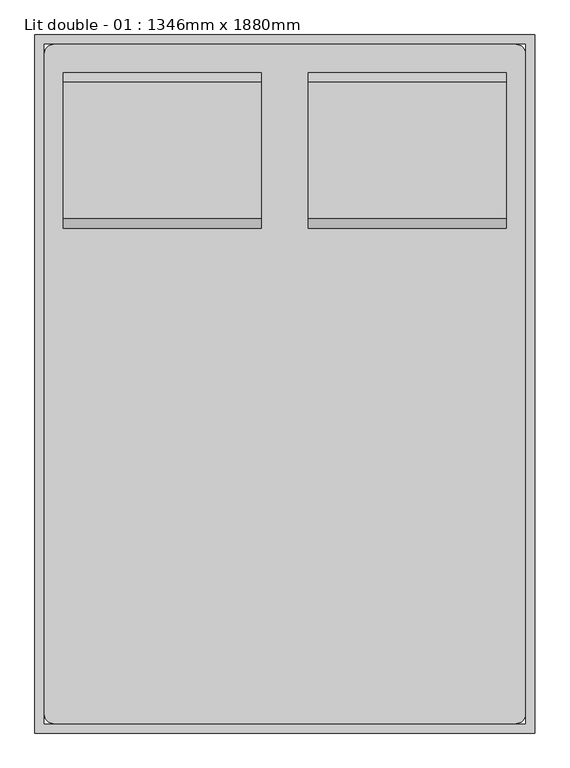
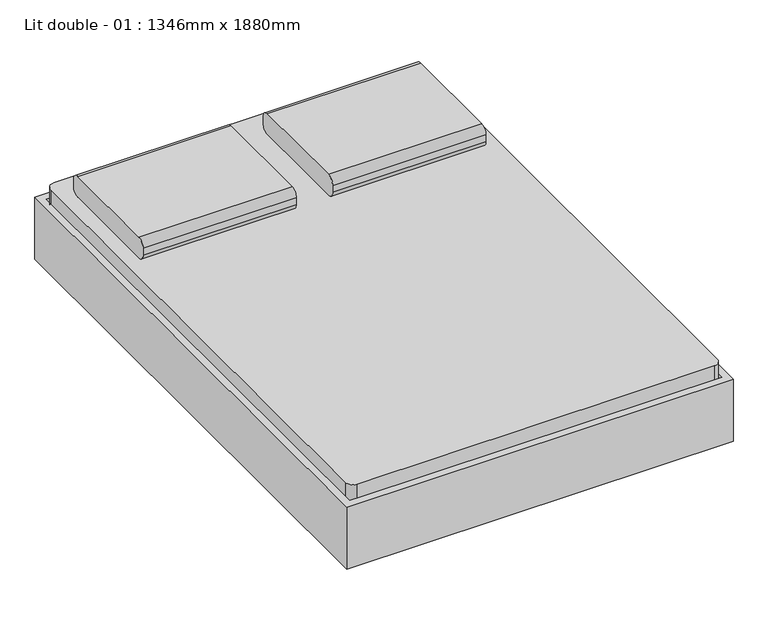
"""IFC4 building model written with IfcOpenShell, lengths in millimetres: furniture geometry, Lit double - 01 : 1346mm x 1880mm."""

from ifc_helpers import new_model, si_unit, point, frame, frame_2d, origin, place, context, project, spatial, polyline, circle_curve, trimmed, segment, composite_curve, outline, extrude, source, transform, mapped, element, save
from ifc_brep_helpers import plane_surface, cylinder_surface, revolved_surface, advanced_brep


def lit_double_01_1346mm_x_1880mm_c10bd567(model_context):
    return source(origin(), model_context, "Body", "SolidModel", [
        advanced_brep(
        [(-308.1231784, 451.5704918, 177.8), (-308.1231784, 375.3704918, 177.8), (-308.1231784, 375.3704918, 196.85), (-308.1231784, 451.5704918, 196.85), (-257.3231784, 451.5704918, 177.8), (-257.3231784, 375.3704918, 177.8), (-245.1869899, 375.3704918, 196.85), (-245.1869899, 451.5704918, 196.85), (-181.2523099, 451.5704918, 14.6654962), (-181.2523099, 375.3704918, 14.6654962), (-163.9871466, 375.3704918, 22.716374), (-163.9871466, 451.5704918, 22.716374), (-158.2320921, 375.3704918, 0.0), (-158.2320921, 451.5704918, 0.0), (-158.2320921, 375.3704918, 19.05), (-158.2320921, 451.5704918, 19.05), (-79.6195862, 451.5704918, 0.0), (-79.6195862, 375.3704918, 0.0), (-79.6195862, 375.3704918, 19.05), (-79.6195862, 451.5704918, 19.05), (-66.9195862, 375.3704918, 3.4029547), (-66.9195862, 451.5704918, 3.4029547), (-76.4445862, 375.3704918, 19.9007387), (-76.4445862, 451.5704918, 19.9007387), (-6.822541, 451.5704918, 38.1), (-6.822541, 375.3704918, 38.1), (-11.9269731, 375.3704918, 57.15), (-11.9269731, 451.5704918, 57.15), (685.4518216, 451.5704918, 38.1), (685.4518216, 375.3704918, 38.1), (690.5562537, 375.3704918, 57.15), (690.5562537, 451.5704918, 57.15), (745.5488669, 451.5704918, 3.4029547), (745.5488669, 375.3704918, 3.4029547), (755.0738669, 375.3704918, 19.9007387), (755.0738669, 451.5704918, 19.9007387), (758.2488669, 375.3704918, 0.0), (758.2488669, 451.5704918, 0.0), (758.2488669, 375.3704918, 19.05), (758.2488669, 451.5704918, 19.05), (836.8613728, 451.5704918, 0.0), (836.8613728, 375.3704918, 0.0), (836.8613728, 375.3704918, 19.05), (836.8613728, 451.5704918, 19.05), (859.8815906, 375.3704918, 14.6654962), (859.8815906, 451.5704918, 14.6654962), (842.6164272, 375.3704918, 22.716374), (842.6164272, 451.5704918, 22.716374), (935.952459, 451.5704918, 177.8), (935.952459, 375.3704918, 177.8), (923.8162705, 375.3704918, 196.85), (923.8162705, 451.5704918, 196.85), (986.752459, 451.5704918, 177.8), (986.752459, 451.5704918, 196.85), (986.752459, 375.3704918, 196.85), (986.752459, 375.3704918, 177.8)],
        [
            (0, 1),
            (1, 2),
            (2, 3),
            (3, 0),
            (0, 4),
            (4, 5),
            (5, 1),
            (5, 6),
            (6, 2),
            (6, 7),
            (7, 3),
            (7, 4),
            (4, 8),
            (8, 9),
            (9, 5),
            (9, 10),
            (10, 6),
            (10, 11),
            (11, 7),
            (11, 8),
            (12, 9, circle_curve(frame((-158.2320921, 375.3704918, 25.4), z_axis=(0.0, 1.0, 0.0), x_axis=(-0.9063077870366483, 0.0, -0.4226182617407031)), 25.4)),
            (8, 13, circle_curve(frame((-158.2320921, 451.5704918, 25.4), z_axis=(0.0, -1.0, 0.0), x_axis=(-0.9063077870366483, 0.0, -0.4226182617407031)), 25.4)),
            (13, 12),
            (14, 10, circle_curve(frame((-158.2320921, 375.3704918, 25.4), z_axis=(0.0, 1.0, 0.0), x_axis=(-0.9063077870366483, 0.0, -0.4226182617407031)), 6.35)),
            (12, 14),
            (15, 11, circle_curve(frame((-158.2320921, 451.5704918, 25.4), z_axis=(0.0, 1.0, 0.0), x_axis=(-0.9063077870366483, 0.0, -0.4226182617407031)), 6.35)),
            (14, 15),
            (15, 13),
            (13, 16),
            (16, 17),
            (17, 12),
            (17, 18),
            (18, 14),
            (18, 19),
            (19, 15),
            (19, 16),
            (20, 17, circle_curve(frame((-79.6195862, 375.3704918, 25.4), z_axis=(0.0, 1.0, 0.0), x_axis=(0.0, 0.0, -1.0)), 25.4)),
            (16, 21, circle_curve(frame((-79.6195862, 451.5704918, 25.4), z_axis=(0.0, -1.0, 0.0), x_axis=(0.0, 0.0, -1.0)), 25.4)),
            (21, 20),
            (22, 18, circle_curve(frame((-79.6195862, 375.3704918, 25.4), z_axis=(0.0, 1.0, 0.0), x_axis=(0.0, 0.0, -1.0)), 6.35)),
            (20, 22),
            (23, 19, circle_curve(frame((-79.6195862, 451.5704918, 25.4), z_axis=(0.0, 1.0, 0.0), x_axis=(0.0, 0.0, -1.0)), 6.35)),
            (22, 23),
            (23, 21),
            (21, 24),
            (24, 25),
            (25, 20),
            (25, 26),
            (26, 22),
            (26, 27),
            (27, 23),
            (27, 24),
            (24, 28),
            (28, 29),
            (29, 25),
            (29, 30),
            (30, 26),
            (30, 31),
            (31, 27),
            (31, 28),
            (28, 32),
            (32, 33),
            (33, 29),
            (33, 34),
            (34, 30),
            (34, 35),
            (35, 31),
            (35, 32),
            (36, 33, circle_curve(frame((758.2488669, 375.3704918, 25.4), z_axis=(0.0, 1.0, 0.0), x_axis=(-0.500000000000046, 0.0, -0.8660254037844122)), 25.4)),
            (32, 37, circle_curve(frame((758.2488669, 451.5704918, 25.4), z_axis=(0.0, -1.0, 0.0), x_axis=(-0.500000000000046, 0.0, -0.8660254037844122)), 25.4)),
            (37, 36),
            (38, 34, circle_curve(frame((758.2488669, 375.3704918, 25.4), z_axis=(0.0, 1.0, 0.0), x_axis=(-0.500000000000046, 0.0, -0.8660254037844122)), 6.35)),
            (36, 38),
            (39, 35, circle_curve(frame((758.2488669, 451.5704918, 25.4), z_axis=(0.0, 1.0, 0.0), x_axis=(-0.500000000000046, 0.0, -0.8660254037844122)), 6.35)),
            (38, 39),
            (39, 37),
            (37, 40),
            (40, 41),
            (41, 36),
            (41, 42),
            (42, 38),
            (42, 43),
            (43, 39),
            (43, 40),
            (44, 41, circle_curve(frame((836.8613728, 375.3704918, 25.4), z_axis=(0.0, 1.0, 0.0), x_axis=(0.0, 0.0, -1.0)), 25.4)),
            (40, 45, circle_curve(frame((836.8613728, 451.5704918, 25.4), z_axis=(0.0, -1.0, 0.0), x_axis=(0.0, 0.0, -1.0)), 25.4)),
            (45, 44),
            (46, 42, circle_curve(frame((836.8613728, 375.3704918, 25.4), z_axis=(0.0, 1.0, 0.0), x_axis=(0.0, 0.0, -1.0)), 6.35)),
            (44, 46),
            (47, 43, circle_curve(frame((836.8613728, 451.5704918, 25.4), z_axis=(0.0, 1.0, 0.0), x_axis=(0.0, 0.0, -1.0)), 6.35)),
            (46, 47),
            (47, 45),
            (45, 48),
            (48, 49),
            (49, 44),
            (49, 50),
            (50, 46),
            (50, 51),
            (51, 47),
            (51, 48),
            (52, 53),
            (53, 54),
            (54, 55),
            (55, 52),
            (48, 52),
            (55, 49),
            (54, 50),
            (53, 51),
        ],
        [
            plane_surface(frame((-308.1231784, 705.5704918, -152.9490627), z_axis=(-1.0, 0.0, 0.0), x_axis=(0.0, 1.0, 0.0))),
            plane_surface(frame((-308.1231784, 451.5704918, 177.8), z_axis=(0.0, 0.0, -1.0), x_axis=(1.0, 0.0, 0.0))),
            plane_surface(frame((-308.1231784, 375.3704918, 177.8), z_axis=(0.0, -1.0, 0.0), x_axis=(1.0, 0.0, 0.0))),
            plane_surface(frame((-308.1231784, 375.3704918, 196.85), z_axis=(0.0, 0.0, 1.0), x_axis=(1.0, 0.0, 0.0))),
            plane_surface(frame((-308.1231784, 451.5704918, 196.85), z_axis=(0.0, 1.0, 0.0), x_axis=(1.0, 0.0, 0.0))),
            plane_surface(frame((-257.3231784, 451.5704918, 177.8), z_axis=(-0.9063077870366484, 0.0, -0.4226182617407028), x_axis=(0.4226182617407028, 0.0, -0.9063077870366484))),
            plane_surface(frame((-257.3231784, 375.3704918, 177.8), z_axis=(0.0, -1.0, 0.0), x_axis=(0.42261826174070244, 0.0, -0.9063077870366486))),
            plane_surface(frame((-245.1869899, 375.3704918, 196.85), z_axis=(0.9063077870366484, 0.0, 0.4226182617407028), x_axis=(0.4226182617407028, 0.0, -0.9063077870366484))),
            plane_surface(frame((-245.1869899, 451.5704918, 196.85), z_axis=(0.0, 1.0, 0.0), x_axis=(0.42261826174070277, 0.0, -0.9063077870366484))),
            cylinder_surface(frame((-158.2320921, 705.5704918, 25.4), z_axis=(0.0, -1.0, 0.0), x_axis=(-0.9063077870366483, 0.0, -0.4226182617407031)), 25.4),
            plane_surface(frame((-158.2320921, 375.3704918, 25.4), z_axis=(0.0, -1.0, 0.0), x_axis=(-0.9063077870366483, 0.0, -0.4226182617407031))),
            revolved_surface(polyline([(-163.9871465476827, 375.3704918, 22.716374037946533), (-163.9871465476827, 451.5704918, 22.716374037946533)]), (-158.2320921, 705.5704918, 25.4), (0.0, -1.0, 0.0)),
            plane_surface(frame((-158.2320921, 451.5704918, 25.4), z_axis=(0.0, 1.0, 0.0), x_axis=(-0.9063077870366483, 0.0, -0.4226182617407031))),
            plane_surface(frame((-158.2320921, 451.5704918, 0.0), z_axis=(0.0, 0.0, -1.0), x_axis=(1.0, 0.0, 0.0))),
            plane_surface(frame((-158.2320921, 375.3704918, 0.0), z_axis=(0.0, -1.0, 0.0), x_axis=(1.0, 0.0, 0.0))),
            plane_surface(frame((-158.2320921, 375.3704918, 19.05), z_axis=(0.0, 0.0, 1.0), x_axis=(1.0, 0.0, 0.0))),
            plane_surface(frame((-158.2320921, 451.5704918, 19.05), z_axis=(0.0, 1.0, 0.0), x_axis=(1.0, 0.0, 0.0))),
            cylinder_surface(frame((-79.6195862, 705.5704918, 25.4), z_axis=(0.0, -1.0, 0.0), x_axis=(0.0, 0.0, -1.0)), 25.4),
            plane_surface(frame((-79.6195862, 375.3704918, 25.4), z_axis=(0.0, -1.0, 0.0), x_axis=(0.0, 0.0, -1.0))),
            revolved_surface(polyline([(-79.6195862, 375.3704918, 19.049999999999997), (-79.6195862, 451.5704918, 19.049999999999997)]), (-79.6195862, 705.5704918, 25.4), (0.0, -1.0, 0.0)),
            plane_surface(frame((-79.6195862, 451.5704918, 25.4), z_axis=(0.0, 1.0, 0.0), x_axis=(0.0, 0.0, -1.0))),
            plane_surface(frame((-66.9195862, 451.5704918, 3.4029547), z_axis=(0.4999999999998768, 0.0, -0.8660254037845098), x_axis=(0.8660254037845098, 0.0, 0.4999999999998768))),
            plane_surface(frame((-66.9195862, 375.3704918, 3.4029547), z_axis=(0.0, -1.0, 0.0), x_axis=(0.8660254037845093, 0.0, 0.4999999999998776))),
            plane_surface(frame((-76.4445862, 375.3704918, 19.9007387), z_axis=(-0.4999999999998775, 0.0, 0.8660254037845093), x_axis=(0.8660254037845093, 0.0, 0.4999999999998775))),
            plane_surface(frame((-76.4445862, 451.5704918, 19.9007387), z_axis=(0.0, 1.0, 0.0), x_axis=(0.8660254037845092, 0.0, 0.4999999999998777))),
            plane_surface(frame((-6.822541, 451.5704918, 38.1), z_axis=(0.0, 0.0, -1.0), x_axis=(1.0, 0.0, 0.0))),
            plane_surface(frame((-6.822541, 375.3704918, 38.1), z_axis=(0.0, -1.0, 0.0), x_axis=(1.0, 0.0, 0.0))),
            plane_surface(frame((-11.9269731, 375.3704918, 57.15), z_axis=(0.0, 0.0, 1.0), x_axis=(1.0, 0.0, 0.0))),
            plane_surface(frame((-11.9269731, 451.5704918, 57.15), z_axis=(0.0, 1.0, 0.0), x_axis=(1.0, 0.0, 0.0))),
            plane_surface(frame((685.4518216, 451.5704918, 38.1), z_axis=(-0.5000000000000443, 0.0, -0.8660254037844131), x_axis=(0.8660254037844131, 0.0, -0.5000000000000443))),
            plane_surface(frame((685.4518216, 375.3704918, 38.1), z_axis=(0.0, -1.0000000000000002, 0.0), x_axis=(0.8660254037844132, 0.0, -0.5000000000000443))),
            plane_surface(frame((690.5562537, 375.3704918, 57.15), z_axis=(0.5000000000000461, 0.0, 0.8660254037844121), x_axis=(0.8660254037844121, 0.0, -0.5000000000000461))),
            plane_surface(frame((690.5562537, 451.5704918, 57.15), z_axis=(0.0, 1.0, 0.0), x_axis=(0.866025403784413, 0.0, -0.5000000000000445))),
            cylinder_surface(frame((758.2488669, 705.5704918, 25.4), z_axis=(0.0, -1.0, 0.0), x_axis=(-0.500000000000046, 0.0, -0.8660254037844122)), 25.4),
            plane_surface(frame((758.2488669, 375.3704918, 25.4), z_axis=(0.0, -1.0, 0.0), x_axis=(-0.500000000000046, 0.0, -0.8660254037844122))),
            revolved_surface(polyline([(755.0738668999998, 375.3704918, 19.90073868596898), (755.0738668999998, 451.5704918, 19.90073868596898)]), (758.2488669, 705.5704918, 25.4), (0.0, -1.0, 0.0)),
            plane_surface(frame((758.2488669, 451.5704918, 25.4), z_axis=(0.0, 1.0, 0.0), x_axis=(-0.500000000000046, 0.0, -0.8660254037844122))),
            plane_surface(frame((758.2488669, 451.5704918, 0.0), z_axis=(0.0, 0.0, -1.0), x_axis=(1.0, 0.0, 0.0))),
            plane_surface(frame((758.2488669, 375.3704918, 0.0), z_axis=(0.0, -1.0, 0.0), x_axis=(1.0, 0.0, 0.0))),
            plane_surface(frame((758.2488669, 375.3704918, 19.05), z_axis=(0.0, 0.0, 1.0), x_axis=(1.0, 0.0, 0.0))),
            plane_surface(frame((758.2488669, 451.5704918, 19.05), z_axis=(0.0, 1.0, 0.0), x_axis=(1.0, 0.0, 0.0))),
            cylinder_surface(frame((836.8613728, 705.5704918, 25.4), z_axis=(0.0, -1.0, 0.0), x_axis=(0.0, 0.0, -1.0)), 25.4),
            plane_surface(frame((836.8613728, 375.3704918, 25.4), z_axis=(0.0, -1.0, 0.0), x_axis=(0.0, 0.0, -1.0))),
            revolved_surface(polyline([(836.8613728, 375.3704918, 19.049999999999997), (836.8613728, 451.5704918, 19.049999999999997)]), (836.8613728, 705.5704918, 25.4), (0.0, -1.0, 0.0)),
            plane_surface(frame((836.8613728, 451.5704918, 25.4), z_axis=(0.0, 1.0, 0.0), x_axis=(0.0, 0.0, -1.0))),
            plane_surface(frame((859.8815906, 451.5704918, 14.6654962), z_axis=(0.9063077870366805, 0.0, -0.42261826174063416), x_axis=(0.42261826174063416, 0.0, 0.9063077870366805))),
            plane_surface(frame((859.8815906, 375.3704918, 14.6654962), z_axis=(0.0, -1.0, 0.0), x_axis=(0.4226182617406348, 0.0, 0.9063077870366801))),
            plane_surface(frame((842.6164272, 375.3704918, 22.716374), z_axis=(-0.9063077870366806, 0.0, 0.42261826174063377), x_axis=(0.42261826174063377, 0.0, 0.9063077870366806))),
            plane_surface(frame((842.6164272, 451.5704918, 22.716374), z_axis=(0.0, 1.0, 0.0), x_axis=(0.4226182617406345, 0.0, 0.9063077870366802))),
            plane_surface(frame((986.752459, 705.5704918, -152.9490627), z_axis=(1.0, 0.0, 0.0), x_axis=(0.0, 1.0, 0.0))),
            plane_surface(frame((935.952459, 451.5704918, 177.8), z_axis=(0.0, 0.0, -1.0), x_axis=(1.0, 0.0, 0.0))),
            plane_surface(frame((935.952459, 375.3704918, 177.8), z_axis=(0.0, -1.0, 0.0), x_axis=(1.0, 0.0, 0.0))),
            plane_surface(frame((923.8162705, 375.3704918, 196.85), z_axis=(0.0, 0.0, 1.0), x_axis=(1.0, 0.0, 0.0))),
            plane_surface(frame((923.8162705, 451.5704918, 196.85), z_axis=(0.0, 1.0, 0.0), x_axis=(1.0, 0.0, 0.0))),
        ],
        [
            (0, [[1, 2, 3, 4]]),
            (1, [[-1, 5, 6, 7]]),
            (2, [[-2, -7, 8, 9]]),
            (3, [[-3, -9, 10, 11]]),
            (4, [[-4, -11, 12, -5]]),
            (5, [[-6, 13, 14, 15]]),
            (6, [[-8, -15, 16, 17]]),
            (7, [[-10, -17, 18, 19]]),
            (8, [[-12, -19, 20, -13]]),
            (9, [[21, -14, 22, 23]]),
            (10, [[24, -16, -21, 25]]),
            (11, [[26, -18, -24, 27]]),
            (12, [[-22, -20, -26, 28]]),
            (13, [[-23, 29, 30, 31]]),
            (14, [[-25, -31, 32, 33]]),
            (15, [[-27, -33, 34, 35]]),
            (16, [[-28, -35, 36, -29]]),
            (17, [[37, -30, 38, 39]]),
            (18, [[40, -32, -37, 41]]),
            (19, [[42, -34, -40, 43]]),
            (20, [[-38, -36, -42, 44]]),
            (21, [[-39, 45, 46, 47]]),
            (22, [[-41, -47, 48, 49]]),
            (23, [[-43, -49, 50, 51]]),
            (24, [[-44, -51, 52, -45]]),
            (25, [[-46, 53, 54, 55]]),
            (26, [[-48, -55, 56, 57]]),
            (27, [[-50, -57, 58, 59]]),
            (28, [[-52, -59, 60, -53]]),
            (29, [[-54, 61, 62, 63]]),
            (30, [[-56, -63, 64, 65]]),
            (31, [[-58, -65, 66, 67]]),
            (32, [[-60, -67, 68, -61]]),
            (33, [[69, -62, 70, 71]]),
            (34, [[72, -64, -69, 73]]),
            (35, [[74, -66, -72, 75]]),
            (36, [[-70, -68, -74, 76]]),
            (37, [[-71, 77, 78, 79]]),
            (38, [[-73, -79, 80, 81]]),
            (39, [[-75, -81, 82, 83]]),
            (40, [[-76, -83, 84, -77]]),
            (41, [[85, -78, 86, 87]]),
            (42, [[88, -80, -85, 89]]),
            (43, [[90, -82, -88, 91]]),
            (44, [[-86, -84, -90, 92]]),
            (45, [[-87, 93, 94, 95]]),
            (46, [[-89, -95, 96, 97]]),
            (47, [[-91, -97, 98, 99]]),
            (48, [[-92, -99, 100, -93]]),
            (49, [[101, 102, 103, 104]]),
            (50, [[-94, 105, -104, 106]]),
            (51, [[-96, -106, -103, 107]]),
            (52, [[-98, -107, -102, 108]]),
            (53, [[-100, -108, -101, -105]]),
        ],
    ),
        advanced_brep(
        [(-308.447541, -869.6295082, 196.85), (-308.447541, -869.6295082, 177.8), (-308.447541, -945.8295082, 177.8), (-308.447541, -945.8295082, 196.85), (-245.5113525, -869.6295082, 196.85), (-257.647541, -869.6295082, 177.8), (-257.647541, -945.8295082, 177.8), (-245.5113525, -945.8295082, 196.85), (-164.3115092, -869.6295082, 22.716374), (-181.5766725, -869.6295082, 14.6654962), (-181.5766725, -945.8295082, 14.6654962), (-164.3115092, -945.8295082, 22.716374), (-158.5564547, -869.6295082, 0.0), (-158.5564547, -869.6295082, 19.05), (-158.5564547, -945.8295082, 0.0), (-158.5564547, -945.8295082, 19.05), (-79.9439489, -869.6295082, 19.05), (-79.9439489, -869.6295082, 0.0), (-79.9439489, -945.8295082, 0.0), (-79.9439489, -945.8295082, 19.05), (-67.2439489, -869.6295082, 3.4029547), (-76.7689489, -869.6295082, 19.9007387), (-67.2439489, -945.8295082, 3.4029547), (-76.7689489, -945.8295082, 19.9007387), (-12.2513357, -869.6295082, 57.15), (-7.1469036, -869.6295082, 38.1), (-7.1469036, -945.8295082, 38.1), (-12.2513357, -945.8295082, 57.15), (690.5562537, -869.6295082, 57.15), (685.4518216, -869.6295082, 38.1), (685.4518216, -945.8295082, 38.1), (690.5562537, -945.8295082, 57.15), (755.0738669, -869.6295082, 19.9007387), (745.5488669, -869.6295082, 3.4029547), (745.5488669, -945.8295082, 3.4029547), (755.0738669, -945.8295082, 19.9007387), (758.2488669, -869.6295082, 0.0), (758.2488669, -869.6295082, 19.05), (758.2488669, -945.8295082, 0.0), (758.2488669, -945.8295082, 19.05), (836.8613728, -869.6295082, 19.05), (836.8613728, -869.6295082, 0.0), (836.8613728, -945.8295082, 0.0), (836.8613728, -945.8295082, 19.05), (859.8815906, -869.6295082, 14.6654962), (842.6164272, -869.6295082, 22.716374), (859.8815906, -945.8295082, 14.6654962), (842.6164272, -945.8295082, 22.716374), (923.8162705, -869.6295082, 196.85), (935.952459, -869.6295082, 177.8), (935.952459, -945.8295082, 177.8), (923.8162705, -945.8295082, 196.85), (986.752459, -869.6295082, 196.85), (986.752459, -945.8295082, 196.85), (986.752459, -945.8295082, 177.8), (986.752459, -869.6295082, 177.8)],
        [
            (0, 1),
            (1, 2),
            (2, 3),
            (3, 0),
            (0, 4),
            (4, 5),
            (5, 1),
            (5, 6),
            (6, 2),
            (6, 7),
            (7, 3),
            (7, 4),
            (4, 8),
            (8, 9),
            (9, 5),
            (9, 10),
            (10, 6),
            (10, 11),
            (11, 7),
            (11, 8),
            (12, 9, circle_curve(frame((-158.5564547, -869.6295082, 25.4), z_axis=(0.0, 1.0, 0.0), x_axis=(-0.906307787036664, 0.0, -0.4226182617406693)), 25.4)),
            (8, 13, circle_curve(frame((-158.5564547, -869.6295082, 25.4), z_axis=(0.0, -1.0, 0.0), x_axis=(-0.906307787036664, 0.0, -0.4226182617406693)), 6.35)),
            (13, 12),
            (14, 10, circle_curve(frame((-158.5564547, -945.8295082, 25.4), z_axis=(0.0, 1.0, 0.0), x_axis=(-0.906307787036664, 0.0, -0.4226182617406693)), 25.4)),
            (12, 14),
            (15, 11, circle_curve(frame((-158.5564547, -945.8295082, 25.4), z_axis=(0.0, 1.0, 0.0), x_axis=(-0.906307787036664, 0.0, -0.4226182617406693)), 6.35)),
            (14, 15),
            (15, 13),
            (13, 16),
            (16, 17),
            (17, 12),
            (17, 18),
            (18, 14),
            (18, 19),
            (19, 15),
            (19, 16),
            (20, 17, circle_curve(frame((-79.9439489, -869.6295082, 25.4), z_axis=(0.0, 1.0, 0.0), x_axis=(0.0, 0.0, -1.0)), 25.4)),
            (16, 21, circle_curve(frame((-79.9439489, -869.6295082, 25.4), z_axis=(0.0, -1.0, 0.0), x_axis=(0.0, 0.0, -1.0)), 6.35)),
            (21, 20),
            (22, 18, circle_curve(frame((-79.9439489, -945.8295082, 25.4), z_axis=(0.0, 1.0, 0.0), x_axis=(0.0, 0.0, -1.0)), 25.4)),
            (20, 22),
            (23, 19, circle_curve(frame((-79.9439489, -945.8295082, 25.4), z_axis=(0.0, 1.0, 0.0), x_axis=(0.0, 0.0, -1.0)), 6.35)),
            (22, 23),
            (23, 21),
            (21, 24),
            (24, 25),
            (25, 20),
            (25, 26),
            (26, 22),
            (26, 27),
            (27, 23),
            (27, 24),
            (24, 28),
            (28, 29),
            (29, 25),
            (29, 30),
            (30, 26),
            (30, 31),
            (31, 27),
            (31, 28),
            (28, 32),
            (32, 33),
            (33, 29),
            (33, 34),
            (34, 30),
            (34, 35),
            (35, 31),
            (35, 32),
            (36, 33, circle_curve(frame((758.2488669, -869.6295082, 25.4), z_axis=(0.0, 1.0, 0.0), x_axis=(-0.5000000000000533, 0.0, -0.866025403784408)), 25.4)),
            (32, 37, circle_curve(frame((758.2488669, -869.6295082, 25.4), z_axis=(0.0, -1.0, 0.0), x_axis=(-0.5000000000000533, 0.0, -0.866025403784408)), 6.35)),
            (37, 36),
            (38, 34, circle_curve(frame((758.2488669, -945.8295082, 25.4), z_axis=(0.0, 1.0, 0.0), x_axis=(-0.5000000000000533, 0.0, -0.866025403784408)), 25.4)),
            (36, 38),
            (39, 35, circle_curve(frame((758.2488669, -945.8295082, 25.4), z_axis=(0.0, 1.0, 0.0), x_axis=(-0.5000000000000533, 0.0, -0.866025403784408)), 6.35)),
            (38, 39),
            (39, 37),
            (37, 40),
            (40, 41),
            (41, 36),
            (41, 42),
            (42, 38),
            (42, 43),
            (43, 39),
            (43, 40),
            (44, 41, circle_curve(frame((836.8613728, -869.6295082, 25.4), z_axis=(0.0, 1.0, 0.0), x_axis=(0.0, 0.0, -1.0)), 25.4)),
            (40, 45, circle_curve(frame((836.8613728, -869.6295082, 25.4), z_axis=(0.0, -1.0, 0.0), x_axis=(0.0, 0.0, -1.0)), 6.35)),
            (45, 44),
            (46, 42, circle_curve(frame((836.8613728, -945.8295082, 25.4), z_axis=(0.0, 1.0, 0.0), x_axis=(0.0, 0.0, -1.0)), 25.4)),
            (44, 46),
            (47, 43, circle_curve(frame((836.8613728, -945.8295082, 25.4), z_axis=(0.0, 1.0, 0.0), x_axis=(0.0, 0.0, -1.0)), 6.35)),
            (46, 47),
            (47, 45),
            (45, 48),
            (48, 49),
            (49, 44),
            (49, 50),
            (50, 46),
            (50, 51),
            (51, 47),
            (51, 48),
            (52, 53),
            (53, 54),
            (54, 55),
            (55, 52),
            (48, 52),
            (55, 49),
            (54, 50),
            (53, 51),
        ],
        [
            plane_surface(frame((-308.447541, -1174.4295082, -127.5947323), z_axis=(-1.0, 0.0, 0.0), x_axis=(0.0, 1.0, 0.0))),
            plane_surface(frame((-308.447541, -869.6295082, 196.85), z_axis=(0.0, 1.0, 0.0), x_axis=(1.0, 0.0, 0.0))),
            plane_surface(frame((-308.447541, -869.6295082, 177.8), z_axis=(0.0, 0.0, -1.0), x_axis=(1.0, 0.0, 0.0))),
            plane_surface(frame((-308.447541, -945.8295082, 177.8), z_axis=(0.0, -1.0, 0.0), x_axis=(1.0, 0.0, 0.0))),
            plane_surface(frame((-308.447541, -945.8295082, 196.85), z_axis=(0.0, 0.0, 1.0), x_axis=(1.0, 0.0, 0.0))),
            plane_surface(frame((-245.5113525, -869.6295082, 196.85), z_axis=(0.0, 1.0, 0.0), x_axis=(0.422618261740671, 0.0, -0.9063077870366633))),
            plane_surface(frame((-257.647541, -869.6295082, 177.8), z_axis=(-0.9063077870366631, 0.0, -0.4226182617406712), x_axis=(0.4226182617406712, 0.0, -0.9063077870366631))),
            plane_surface(frame((-257.647541, -945.8295082, 177.8), z_axis=(0.0, -1.0000000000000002, 0.0), x_axis=(0.4226182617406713, 0.0, -0.9063077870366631))),
            plane_surface(frame((-245.5113525, -945.8295082, 196.85), z_axis=(0.9063077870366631, 0.0, 0.42261826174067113), x_axis=(0.42261826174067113, 0.0, -0.9063077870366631))),
            plane_surface(frame((-158.5564547, -869.6295082, 25.4), z_axis=(0.0, 1.0, 0.0), x_axis=(-0.906307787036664, 0.0, -0.4226182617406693))),
            cylinder_surface(frame((-158.5564547, -1174.4295082, 25.4), z_axis=(0.0, -1.0, 0.0), x_axis=(-0.906307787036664, 0.0, -0.4226182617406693)), 25.4),
            plane_surface(frame((-158.5564547, -945.8295082, 25.4), z_axis=(0.0, -1.0, 0.0), x_axis=(-0.906307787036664, 0.0, -0.4226182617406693))),
            revolved_surface(polyline([(-164.3115091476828, -945.8295082, 22.71637403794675), (-164.3115091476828, -869.6295082, 22.71637403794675)]), (-158.5564547, -1174.4295082, 25.4), (0.0, -1.0, 0.0)),
            plane_surface(frame((-158.5564547, -869.6295082, 19.05), z_axis=(0.0, 1.0, 0.0), x_axis=(1.0, 0.0, 0.0))),
            plane_surface(frame((-158.5564547, -869.6295082, 0.0), z_axis=(0.0, 0.0, -1.0), x_axis=(1.0, 0.0, 0.0))),
            plane_surface(frame((-158.5564547, -945.8295082, 0.0), z_axis=(0.0, -1.0, 0.0), x_axis=(1.0, 0.0, 0.0))),
            plane_surface(frame((-158.5564547, -945.8295082, 19.05), z_axis=(0.0, 0.0, 1.0), x_axis=(1.0, 0.0, 0.0))),
            plane_surface(frame((-79.9439489, -869.6295082, 25.4), z_axis=(0.0, 1.0, 0.0), x_axis=(0.0, 0.0, -1.0))),
            cylinder_surface(frame((-79.9439489, -1174.4295082, 25.4), z_axis=(0.0, -1.0, 0.0), x_axis=(0.0, 0.0, -1.0)), 25.4),
            plane_surface(frame((-79.9439489, -945.8295082, 25.4), z_axis=(0.0, -1.0, 0.0), x_axis=(0.0, 0.0, -1.0))),
            revolved_surface(polyline([(-79.9439489, -945.8295082, 19.049999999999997), (-79.9439489, -869.6295082, 19.049999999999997)]), (-79.9439489, -1174.4295082, 25.4), (0.0, -1.0, 0.0)),
            plane_surface(frame((-76.7689489, -869.6295082, 19.9007387), z_axis=(0.0, 1.0, 0.0), x_axis=(0.8660254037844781, 0.0, 0.4999999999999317))),
            plane_surface(frame((-67.2439489, -869.6295082, 3.4029547), z_axis=(0.4999999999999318, 0.0, -0.8660254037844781), x_axis=(0.8660254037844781, 0.0, 0.4999999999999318))),
            plane_surface(frame((-67.2439489, -945.8295082, 3.4029547), z_axis=(0.0, -1.0, 0.0), x_axis=(0.8660254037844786, 0.0, 0.4999999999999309))),
            plane_surface(frame((-76.7689489, -945.8295082, 19.9007387), z_axis=(-0.49999999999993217, 0.0, 0.8660254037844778), x_axis=(0.8660254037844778, 0.0, 0.49999999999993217))),
            plane_surface(frame((-12.2513357, -869.6295082, 57.15), z_axis=(0.0, 1.0, 0.0), x_axis=(1.0, 0.0, 0.0))),
            plane_surface(frame((-7.1469036, -869.6295082, 38.1), z_axis=(0.0, 0.0, -1.0), x_axis=(1.0, 0.0, 0.0))),
            plane_surface(frame((-7.1469036, -945.8295082, 38.1), z_axis=(0.0, -1.0, 0.0), x_axis=(1.0, 0.0, 0.0))),
            plane_surface(frame((-12.2513357, -945.8295082, 57.15), z_axis=(0.0, 0.0, 1.0), x_axis=(1.0, 0.0, 0.0))),
            plane_surface(frame((690.5562537, -869.6295082, 57.15), z_axis=(0.0, 1.0, 0.0), x_axis=(0.8660254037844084, 0.0, -0.5000000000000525))),
            plane_surface(frame((685.4518216, -869.6295082, 38.1), z_axis=(-0.500000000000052, 0.0, -0.8660254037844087), x_axis=(0.8660254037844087, 0.0, -0.500000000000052))),
            plane_surface(frame((685.4518216, -945.8295082, 38.1), z_axis=(0.0, -1.0, 0.0), x_axis=(0.866025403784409, 0.0, -0.5000000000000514))),
            plane_surface(frame((690.5562537, -945.8295082, 57.15), z_axis=(0.5000000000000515, 0.0, 0.866025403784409), x_axis=(0.866025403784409, 0.0, -0.5000000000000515))),
            plane_surface(frame((758.2488669, -869.6295082, 25.4), z_axis=(0.0, 1.0, 0.0), x_axis=(-0.5000000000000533, 0.0, -0.866025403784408))),
            cylinder_surface(frame((758.2488669, -1174.4295082, 25.4), z_axis=(0.0, -1.0, 0.0), x_axis=(-0.5000000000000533, 0.0, -0.866025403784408)), 25.4),
            plane_surface(frame((758.2488669, -945.8295082, 25.4), z_axis=(0.0, -1.0, 0.0), x_axis=(-0.5000000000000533, 0.0, -0.866025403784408))),
            revolved_surface(polyline([(755.0738668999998, -945.8295082, 19.90073868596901), (755.0738668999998, -869.6295082, 19.90073868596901)]), (758.2488669, -1174.4295082, 25.4), (0.0, -1.0, 0.0)),
            plane_surface(frame((758.2488669, -869.6295082, 19.05), z_axis=(0.0, 1.0, 0.0), x_axis=(1.0, 0.0, 0.0))),
            plane_surface(frame((758.2488669, -869.6295082, 0.0), z_axis=(0.0, 0.0, -1.0), x_axis=(1.0, 0.0, 0.0))),
            plane_surface(frame((758.2488669, -945.8295082, 0.0), z_axis=(0.0, -1.0, 0.0), x_axis=(1.0, 0.0, 0.0))),
            plane_surface(frame((758.2488669, -945.8295082, 19.05), z_axis=(0.0, 0.0, 1.0), x_axis=(1.0, 0.0, 0.0))),
            plane_surface(frame((836.8613728, -869.6295082, 25.4), z_axis=(0.0, 1.0, 0.0), x_axis=(0.0, 0.0, -1.0))),
            cylinder_surface(frame((836.8613728, -1174.4295082, 25.4), z_axis=(0.0, -1.0, 0.0), x_axis=(0.0, 0.0, -1.0)), 25.4),
            plane_surface(frame((836.8613728, -945.8295082, 25.4), z_axis=(0.0, -1.0, 0.0), x_axis=(0.0, 0.0, -1.0))),
            revolved_surface(polyline([(836.8613728, -945.8295082, 19.049999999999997), (836.8613728, -869.6295082, 19.049999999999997)]), (836.8613728, -1174.4295082, 25.4), (0.0, -1.0, 0.0)),
            plane_surface(frame((842.6164272, -869.6295082, 22.716374), z_axis=(0.0, 1.0000000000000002, 0.0), x_axis=(0.4226182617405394, 0.0, 0.9063077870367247))),
            plane_surface(frame((859.8815906, -869.6295082, 14.6654962), z_axis=(0.9063077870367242, 0.0, -0.42261826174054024), x_axis=(0.42261826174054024, 0.0, 0.9063077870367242))),
            plane_surface(frame((859.8815906, -945.8295082, 14.6654962), z_axis=(0.0, -1.0, 0.0), x_axis=(0.4226182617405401, 0.0, 0.9063077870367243))),
            plane_surface(frame((842.6164272, -945.8295082, 22.716374), z_axis=(-0.9063077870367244, 0.0, 0.42261826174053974), x_axis=(0.42261826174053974, 0.0, 0.9063077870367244))),
            plane_surface(frame((986.752459, -1174.4295082, -127.5947323), z_axis=(1.0, 0.0, 0.0), x_axis=(0.0, 1.0, 0.0))),
            plane_surface(frame((923.8162705, -869.6295082, 196.85), z_axis=(0.0, 1.0, 0.0), x_axis=(1.0, 0.0, 0.0))),
            plane_surface(frame((935.952459, -869.6295082, 177.8), z_axis=(0.0, 0.0, -1.0), x_axis=(1.0, 0.0, 0.0))),
            plane_surface(frame((935.952459, -945.8295082, 177.8), z_axis=(0.0, -1.0, 0.0), x_axis=(1.0, 0.0, 0.0))),
            plane_surface(frame((923.8162705, -945.8295082, 196.85), z_axis=(0.0, 0.0, 1.0), x_axis=(1.0, 0.0, 0.0))),
        ],
        [
            (0, [[1, 2, 3, 4]]),
            (1, [[-1, 5, 6, 7]]),
            (2, [[-2, -7, 8, 9]]),
            (3, [[-3, -9, 10, 11]]),
            (4, [[-4, -11, 12, -5]]),
            (5, [[-6, 13, 14, 15]]),
            (6, [[-8, -15, 16, 17]]),
            (7, [[-10, -17, 18, 19]]),
            (8, [[-12, -19, 20, -13]]),
            (9, [[21, -14, 22, 23]]),
            (10, [[24, -16, -21, 25]]),
            (11, [[26, -18, -24, 27]]),
            (12, [[-22, -20, -26, 28]]),
            (13, [[-23, 29, 30, 31]]),
            (14, [[-25, -31, 32, 33]]),
            (15, [[-27, -33, 34, 35]]),
            (16, [[-28, -35, 36, -29]]),
            (17, [[37, -30, 38, 39]]),
            (18, [[40, -32, -37, 41]]),
            (19, [[42, -34, -40, 43]]),
            (20, [[-38, -36, -42, 44]]),
            (21, [[-39, 45, 46, 47]]),
            (22, [[-41, -47, 48, 49]]),
            (23, [[-43, -49, 50, 51]]),
            (24, [[-44, -51, 52, -45]]),
            (25, [[-46, 53, 54, 55]]),
            (26, [[-48, -55, 56, 57]]),
            (27, [[-50, -57, 58, 59]]),
            (28, [[-52, -59, 60, -53]]),
            (29, [[-54, 61, 62, 63]]),
            (30, [[-56, -63, 64, 65]]),
            (31, [[-58, -65, 66, 67]]),
            (32, [[-60, -67, 68, -61]]),
            (33, [[69, -62, 70, 71]]),
            (34, [[72, -64, -69, 73]]),
            (35, [[74, -66, -72, 75]]),
            (36, [[-70, -68, -74, 76]]),
            (37, [[-71, 77, 78, 79]]),
            (38, [[-73, -79, 80, 81]]),
            (39, [[-75, -81, 82, 83]]),
            (40, [[-76, -83, 84, -77]]),
            (41, [[85, -78, 86, 87]]),
            (42, [[88, -80, -85, 89]]),
            (43, [[90, -82, -88, 91]]),
            (44, [[-86, -84, -90, 92]]),
            (45, [[-87, 93, 94, 95]]),
            (46, [[-89, -95, 96, 97]]),
            (47, [[-91, -97, 98, 99]]),
            (48, [[-92, -99, 100, -93]]),
            (49, [[101, 102, 103, 104]]),
            (50, [[-94, 105, -104, 106]]),
            (51, [[-96, -106, -103, 107]]),
            (52, [[-98, -107, -102, 108]]),
            (53, [[-100, -108, -101, -105]]),
        ],
    ),
        extrude(outline(composite_curve([segment(polyline([(578.5704918, 406.4), (210.2704918, 406.4)]), True, "CONTINUOUS"), segment(trimmed(circle_curve(frame_2d((210.2704918, 431.8)), 25.4), [point((210.2704918, 406.4))], [point((184.8704918, 431.8))], False, "CARTESIAN"), True, "CONTINUOUS"), segment(polyline([(184.8704918, 431.8), (184.8704918, 457.2)]), True, "CONTINUOUS"), segment(trimmed(circle_curve(frame_2d((210.2704918, 457.2)), 25.4), [point((184.8704918, 457.2))], [point((210.2704918, 482.6))], False, "CARTESIAN"), True, "CONTINUOUS"), segment(polyline([(210.2704918, 482.6), (578.5704918, 482.6)]), True, "CONTINUOUS"), segment(trimmed(circle_curve(frame_2d((578.5704918, 457.2)), 25.4), [point((578.5704918, 482.6))], [point((603.9704918, 457.2))], False, "CARTESIAN"), True, "CONTINUOUS"), segment(polyline([(603.9704918, 457.2), (603.9704918, 431.8)]), True, "CONTINUOUS"), segment(trimmed(circle_curve(frame_2d((578.5704918, 431.8)), 25.4), [point((603.9704918, 431.8))], [point((578.5704918, 406.4))], False, "CARTESIAN"), True, "CONTINUOUS")], self_intersect=False)), frame((402.652459, 0.0, 0.0), z_axis=(1.0, 0.0, 0.0), x_axis=(0.0, 1.0, 0.0)), (0.0, 0.0, 1.0), 533.3),
        extrude(outline(composite_curve([segment(polyline([(578.5704918, 406.4), (210.2704918, 406.4)]), True, "CONTINUOUS"), segment(trimmed(circle_curve(frame_2d((210.2704918, 431.8)), 25.4), [point((210.2704918, 406.4))], [point((184.8704918, 431.8))], False, "CARTESIAN"), True, "CONTINUOUS"), segment(polyline([(184.8704918, 431.8), (184.8704918, 457.2)]), True, "CONTINUOUS"), segment(trimmed(circle_curve(frame_2d((210.2704918, 457.2)), 25.4), [point((184.8704918, 457.2))], [point((210.2704918, 482.6))], False, "CARTESIAN"), True, "CONTINUOUS"), segment(polyline([(210.2704918, 482.6), (578.5704918, 482.6)]), True, "CONTINUOUS"), segment(trimmed(circle_curve(frame_2d((578.5704918, 457.2)), 25.4), [point((578.5704918, 482.6))], [point((603.9704918, 457.2))], False, "CARTESIAN"), True, "CONTINUOUS"), segment(polyline([(603.9704918, 457.2), (603.9704918, 431.8)]), True, "CONTINUOUS"), segment(trimmed(circle_curve(frame_2d((578.5704918, 431.8)), 25.4), [point((603.9704918, 431.8))], [point((578.5704918, 406.4))], False, "CARTESIAN"), True, "CONTINUOUS")], self_intersect=False)), frame((-257.647541, 0.0, 0.0), z_axis=(1.0, 0.0, 0.0), x_axis=(0.0, 1.0, 0.0)), (0.0, 0.0, 1.0), 533.3),
        extrude(outline(composite_curve([segment(polyline([(-283.047541, 680.1704918), (961.352459, 680.1704918)]), True, "CONTINUOUS"), segment(trimmed(circle_curve(frame_2d((961.352459, 654.7704918)), 25.4), [point((961.352459, 680.1704918))], [point((986.752459, 654.7704918))], False, "CARTESIAN"), True, "CONTINUOUS"), segment(polyline([(986.752459, 654.7704918), (986.752459, -1123.6295082)]), True, "CONTINUOUS"), segment(trimmed(circle_curve(frame_2d((961.352459, -1123.6295082)), 25.4), [point((986.752459, -1123.6295082))], [point((961.352459, -1149.0295082))], False, "CARTESIAN"), True, "CONTINUOUS"), segment(polyline([(961.352459, -1149.0295082), (-283.047541, -1149.0295082)]), True, "CONTINUOUS"), segment(trimmed(circle_curve(frame_2d((-283.047541, -1123.6295082)), 25.4), [point((-283.047541, -1149.0295082))], [point((-308.447541, -1123.6295082))], False, "CARTESIAN"), True, "CONTINUOUS"), segment(polyline([(-308.447541, -1123.6295082), (-308.447541, 654.7704918)]), True, "CONTINUOUS"), segment(trimmed(circle_curve(frame_2d((-283.047541, 654.7704918)), 25.4), [point((-308.447541, 654.7704918))], [point((-283.047541, 680.1704918))], False, "CARTESIAN"), True, "CONTINUOUS")], self_intersect=False)), frame((0.0, 0.0, 203.2), z_axis=(0.0, 0.0, 1.0), x_axis=(1.0, 0.0, 0.0)), (0.0, 0.0, 1.0), 203.2),
        extrude(outline(polyline([(1012.152459, 705.5704918), (1012.152459, -1174.4295082), (-333.847541, -1174.4295082), (-333.847541, 705.5704918), (1012.152459, 705.5704918)]), holes=[polyline([(986.752459, 680.1704918), (-308.447541, 680.1704918), (-308.447541, -1149.0295082), (986.752459, -1149.0295082), (986.752459, 680.1704918)])]), frame((0.0, 0.0, 127.0), z_axis=(0.0, 0.0, 1.0), x_axis=(1.0, 0.0, 0.0)), (0.0, 0.0, 1.0), 228.6),
    ])


if __name__ == "__main__":
    model = new_model("IFC4")
    model_context = context("Model", 3, world=origin())
    ifc_project = project(units=[si_unit("LENGTHUNIT", "METRE", prefix="MILLI")], contexts=[model_context])
    site = spatial("IfcSite", under=ifc_project)
    building = spatial("IfcBuilding", under=site)
    placement = place(None, origin())
    lit_double_01_1346mm_x_1880mm_shape = lit_double_01_1346mm_x_1880mm_c10bd567(model_context)
    element("IfcFurniture", 1, ObjectType="Lit double - 01 : 1346mm x 1880mm", at=placement, inside=building, context=model_context, shape_type="MappedRepresentation", body=[
        mapped(lit_double_01_1346mm_x_1880mm_shape, transform((0.0, 0.0, 0.0), x_axis=(1.0, 0.0, 0.0), y_axis=(0.0, 1.0, 0.0), z_axis=(0.0, 0.0, 1.0))),
    ])
    save(model, "model.ifc")
